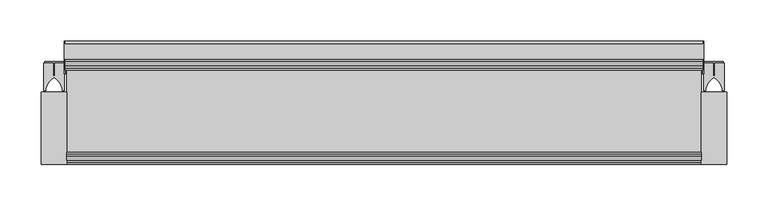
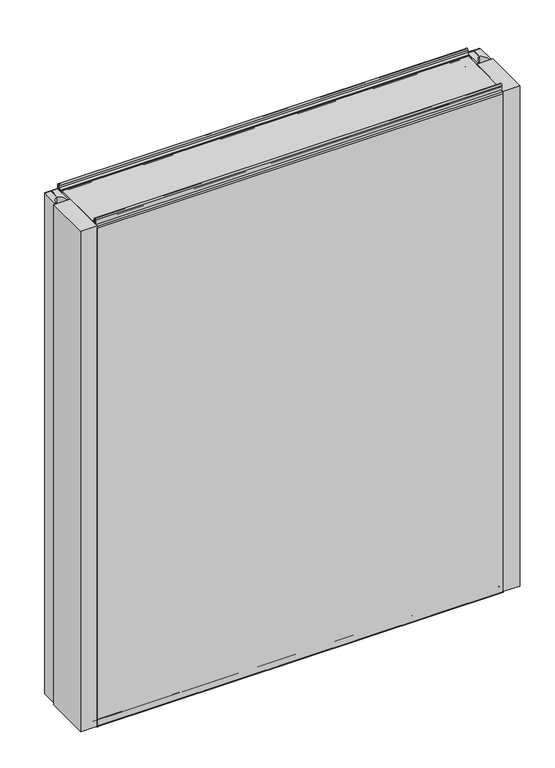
"""IFC4 building model written with IfcOpenShell, lengths in millimetres: plate geometry, Fronttop : Fronttop 150/1000."""

from ifc_helpers import new_model, si_unit, point, frame, frame_2d, origin, origin_with_axes, place, context, project, spatial, polyline, circle_curve, trimmed, segment, composite_curve, outline, extrude, source, transform, mapped, element, save
from ifc_brep_helpers import plane_surface, cylinder_surface, revolved_surface, advanced_brep


def plate_48909ca9(model_context):
    return source(origin(), model_context, "Body", "SolidModel", [
        advanced_brep(
        [(-386.5, 124.0, 1008.0), (-386.5, 121.0, 1008.0), (-386.5, 121.0, 1004.0), (-386.5, 117.0, 1000.0), (-386.5, 115.0, 1000.0), (-386.5, 115.0, 1001.0), (-386.5, 117.0, 1001.0), (-386.5, 120.0, 1004.0), (-386.5, 120.0, 1008.0), (-386.5, 125.0, 1008.0), (-386.5, 125.0, 1000.0), (-386.5, 124.0, 1000.0), (386.5, 125.0, 1008.0), (386.5, 120.0, 1008.0), (386.5, 120.0, 1004.0), (386.5, 117.0, 1001.0), (386.5, 115.0, 1001.0), (386.5, 115.0, 1000.0), (386.5, 117.0, 1000.0), (386.5, 121.0, 1004.0), (386.5, 121.0, 1008.0), (386.5, 124.0, 1008.0), (386.5, 124.0, 1000.0), (386.5, 125.0, 1000.0), (-386.5, 117.0, 2.0), (386.5, 117.0, 2.0), (386.5, 115.0, 2.0), (-386.5, 115.0, 2.0), (-386.5, 119.0, 4.0), (386.5, 119.0, 4.0), (-386.5, 119.0, 8.0), (386.5, 119.0, 8.0), (-386.5, 126.0, 8.0), (386.5, 126.0, 8.0), (-386.5, 126.0, 0.0), (386.5, 126.0, 0.0), (-386.5, 129.0, -3.0), (386.5, 129.0, -3.0), (-386.5, 125.0, -3.0), (-387.5, 125.0, -3.0), (-387.5, 147.0, -3.0), (-386.5, 147.0, -3.0), (386.5, 147.0, -3.0), (387.5, 147.0, -3.0), (387.5, 125.0, -3.0), (386.5, 125.0, -3.0), (-386.5, 150.0, 0.0), (386.5, 150.0, 0.0), (-387.5, 150.0, 0.0), (-387.5, 150.0, 969.0), (-386.5, 150.0, 969.0), (386.5, 150.0, 969.0), (387.5, 150.0, 969.0), (387.5, 150.0, 0.0), (-386.5, 147.0, 972.0), (386.5, 147.0, 972.0), (-387.5, 147.0, 972.0), (-387.5, 128.0, 972.0), (-386.5, 128.0, 972.0), (386.5, 128.0, 972.0), (387.5, 128.0, 972.0), (387.5, 147.0, 972.0), (-386.5, 125.0, 975.0), (386.5, 125.0, 975.0), (-387.5, 125.0, 975.0), (-387.5, 125.0, 1000.0), (387.5, 125.0, 1000.0), (387.5, 125.0, 975.0), (-386.5, 124.0, 975.0), (386.5, 124.0, 975.0), (-386.5, 128.0, 971.0), (386.5, 128.0, 971.0), (-386.5, 147.0, 971.0), (386.5, 147.0, 971.0), (-386.5, 149.0, 969.0), (386.5, 149.0, 969.0), (-386.5, 149.0, 0.0), (386.5, 149.0, 0.0), (-386.5, 147.0, -2.0), (386.5, 147.0, -2.0), (-386.5, 129.0, -2.0), (386.5, 129.0, -2.0), (-386.5, 127.0, 0.0), (386.5, 127.0, 0.0), (-386.5, 127.0, 8.0), (386.5, 127.0, 8.0), (-386.5, 118.0, 8.0), (386.5, 118.0, 8.0), (-386.5, 118.0, 4.0), (386.5, 118.0, 4.0), (-386.5, 117.0, 3.0), (386.5, 117.0, 3.0), (-386.5, 115.0, 3.0), (386.5, 115.0, 3.0), (387.5, 110.0, 1000.0), (387.5, 110.0, 0.0), (387.5, 125.0, 0.0), (386.5, 125.0, 0.0), (386.5, 110.0, 0.0), (386.5, 110.0, 1000.0), (-387.5, 125.0, 0.0), (-387.5, 110.0, 0.0), (-387.5, 110.0, 1000.0), (-386.5, 110.0, 1000.0), (-386.5, 110.0, 0.0), (-386.5, 125.0, 0.0)],
        [
            (0, 1, circle_curve(frame((-386.5, 122.5, 1008.0), z_axis=(1.0, 0.0, 0.0), x_axis=(0.0, -1.0, 0.0)), 1.5)),
            (1, 2),
            (2, 3, circle_curve(frame((-386.5, 117.0, 1004.0), z_axis=(-1.0, 0.0, 0.0), x_axis=(0.0, -1.0, 0.0)), 4.0)),
            (3, 4),
            (4, 5),
            (5, 6),
            (6, 7, circle_curve(frame((-386.5, 117.0, 1004.0), z_axis=(1.0, 0.0, 0.0), x_axis=(0.0, -1.0, 0.0)), 3.0)),
            (7, 8),
            (8, 9, circle_curve(frame((-386.5, 122.5, 1008.0), z_axis=(-1.0, 0.0, 0.0), x_axis=(0.0, -1.0, 0.0)), 2.5)),
            (9, 10),
            (10, 11),
            (11, 0),
            (12, 13, circle_curve(frame((386.5, 122.5, 1008.0), z_axis=(1.0, 0.0, 0.0), x_axis=(0.0, -1.0, 0.0)), 2.5)),
            (13, 14),
            (14, 15, circle_curve(frame((386.5, 117.0, 1004.0), z_axis=(-1.0, 0.0, 0.0), x_axis=(0.0, -1.0, 0.0)), 3.0)),
            (15, 16),
            (16, 17),
            (17, 18),
            (18, 19, circle_curve(frame((386.5, 117.0, 1004.0), z_axis=(1.0, 0.0, 0.0), x_axis=(0.0, -1.0, 0.0)), 4.0)),
            (19, 20),
            (20, 21, circle_curve(frame((386.5, 122.5, 1008.0), z_axis=(-1.0, 0.0, 0.0), x_axis=(0.0, -1.0, 0.0)), 1.5)),
            (21, 22),
            (22, 23),
            (23, 12),
            (24, 25),
            (25, 26),
            (26, 27),
            (27, 24),
            (24, 28, circle_curve(frame((-386.5, 117.0, 4.0), z_axis=(1.0, 0.0, 0.0), x_axis=(0.0, -1.0, 0.0)), 2.0)),
            (28, 29),
            (29, 25, circle_curve(frame((386.5, 117.0, 4.0), z_axis=(-1.0, 0.0, 0.0), x_axis=(0.0, -1.0, 0.0)), 2.0)),
            (28, 30),
            (30, 31),
            (31, 29),
            (30, 32, circle_curve(frame((-386.5, 122.5, 8.0), z_axis=(-1.0, 0.0, 0.0), x_axis=(0.0, -1.0, 0.0)), 3.5)),
            (32, 33),
            (33, 31, circle_curve(frame((386.5, 122.5, 8.0), z_axis=(1.0, 0.0, 0.0), x_axis=(0.0, -1.0, 0.0)), 3.5)),
            (32, 34),
            (34, 35),
            (35, 33),
            (34, 36, circle_curve(frame((-386.5, 129.0, 0.0), z_axis=(1.0, 0.0, 0.0), x_axis=(0.0, -1.0, 0.0)), 3.0)),
            (36, 37),
            (37, 35, circle_curve(frame((386.5, 129.0, 0.0), z_axis=(-1.0, 0.0, 0.0), x_axis=(0.0, -1.0, 0.0)), 3.0)),
            (36, 38),
            (38, 39),
            (39, 40),
            (40, 41),
            (41, 42),
            (42, 43),
            (43, 44),
            (44, 45),
            (45, 37),
            (41, 46, circle_curve(frame((-386.5, 147.0, 0.0), z_axis=(1.0, 0.0, 0.0), x_axis=(0.0, -1.0, 0.0)), 3.0)),
            (46, 47),
            (47, 42, circle_curve(frame((386.5, 147.0, 0.0), z_axis=(-1.0, 0.0, 0.0), x_axis=(0.0, -1.0, 0.0)), 3.0)),
            (46, 48),
            (48, 49),
            (49, 50),
            (50, 51),
            (51, 52),
            (52, 53),
            (53, 47),
            (50, 54, circle_curve(frame((-386.5, 147.0, 969.0), z_axis=(1.0, 0.0, 0.0), x_axis=(0.0, -1.0, 0.0)), 3.0)),
            (54, 55),
            (55, 51, circle_curve(frame((386.5, 147.0, 969.0), z_axis=(-1.0, 0.0, 0.0), x_axis=(0.0, -1.0, 0.0)), 3.0)),
            (54, 56),
            (56, 57),
            (57, 58),
            (58, 59),
            (59, 60),
            (60, 61),
            (61, 55),
            (58, 62, circle_curve(frame((-386.5, 128.0, 975.0), z_axis=(-1.0, 0.0, 0.0), x_axis=(0.0, -1.0, 0.0)), 3.0)),
            (62, 63),
            (63, 59, circle_curve(frame((386.5, 128.0, 975.0), z_axis=(1.0, 0.0, 0.0), x_axis=(0.0, -1.0, 0.0)), 3.0)),
            (62, 64),
            (64, 65),
            (65, 10),
            (9, 12),
            (23, 66),
            (66, 67),
            (67, 63),
            (8, 13),
            (7, 14),
            (6, 15),
            (5, 16),
            (4, 17),
            (4, 3),
            (3, 18),
            (18, 17),
            (2, 19),
            (1, 20),
            (0, 21),
            (11, 68),
            (68, 69),
            (69, 22),
            (68, 70, circle_curve(frame((-386.5, 128.0, 975.0), z_axis=(1.0, 0.0, 0.0), x_axis=(0.0, -1.0, 0.0)), 4.0)),
            (70, 71),
            (71, 69, circle_curve(frame((386.5, 128.0, 975.0), z_axis=(-1.0, 0.0, 0.0), x_axis=(0.0, -1.0, 0.0)), 4.0)),
            (70, 72),
            (72, 73),
            (73, 71),
            (72, 74, circle_curve(frame((-386.5, 147.0, 969.0), z_axis=(-1.0, 0.0, 0.0), x_axis=(0.0, -1.0, 0.0)), 2.0)),
            (74, 75),
            (75, 73, circle_curve(frame((386.5, 147.0, 969.0), z_axis=(1.0, 0.0, 0.0), x_axis=(0.0, -1.0, 0.0)), 2.0)),
            (74, 76),
            (76, 77),
            (77, 75),
            (76, 78, circle_curve(frame((-386.5, 147.0, 0.0), z_axis=(-1.0, 0.0, 0.0), x_axis=(0.0, -1.0, 0.0)), 2.0)),
            (78, 79),
            (79, 77, circle_curve(frame((386.5, 147.0, 0.0), z_axis=(1.0, 0.0, 0.0), x_axis=(0.0, -1.0, 0.0)), 2.0)),
            (78, 80),
            (80, 81),
            (81, 79),
            (80, 82, circle_curve(frame((-386.5, 129.0, 0.0), z_axis=(-1.0, 0.0, 0.0), x_axis=(0.0, -1.0, 0.0)), 2.0)),
            (82, 83),
            (83, 81, circle_curve(frame((386.5, 129.0, 0.0), z_axis=(1.0, 0.0, 0.0), x_axis=(0.0, -1.0, 0.0)), 2.0)),
            (82, 84),
            (84, 85),
            (85, 83),
            (84, 86, circle_curve(frame((-386.5, 122.5, 8.0), z_axis=(1.0, 0.0, 0.0), x_axis=(0.0, -1.0, 0.0)), 4.5)),
            (86, 87),
            (87, 85, circle_curve(frame((386.5, 122.5, 8.0), z_axis=(-1.0, 0.0, 0.0), x_axis=(0.0, -1.0, 0.0)), 4.5)),
            (86, 88),
            (88, 89),
            (89, 87),
            (88, 90, circle_curve(frame((-386.5, 117.0, 4.0), z_axis=(-1.0, 0.0, 0.0), x_axis=(0.0, -1.0, 0.0)), 1.0)),
            (90, 91),
            (91, 89, circle_curve(frame((386.5, 117.0, 4.0), z_axis=(1.0, 0.0, 0.0), x_axis=(0.0, -1.0, 0.0)), 1.0)),
            (90, 92),
            (92, 93),
            (93, 91),
            (26, 93),
            (92, 27),
            (66, 94),
            (94, 95),
            (95, 96),
            (96, 44),
            (43, 53, circle_curve(frame((387.5, 147.0, 0.0), z_axis=(1.0, 0.0, 0.0), x_axis=(0.0, 1.0, 0.0)), 3.0)),
            (52, 61, circle_curve(frame((387.5, 147.0, 969.0), z_axis=(1.0, 0.0, 0.0), x_axis=(0.0, 1.0, 0.0)), 3.0)),
            (60, 67, circle_curve(frame((387.5, 128.0, 975.0), z_axis=(-1.0, 0.0, 0.0), x_axis=(0.0, 1.0, 0.0)), 3.0)),
            (45, 97),
            (97, 98),
            (98, 99),
            (99, 17),
            (18, 22),
            (99, 94),
            (98, 95),
            (97, 96),
            (64, 57, circle_curve(frame((-387.5, 128.0, 975.0), z_axis=(1.0, 0.0, 0.0), x_axis=(0.0, 1.0, 0.0)), 3.0)),
            (56, 49, circle_curve(frame((-387.5, 147.0, 969.0), z_axis=(-1.0, 0.0, 0.0), x_axis=(0.0, 1.0, 0.0)), 3.0)),
            (48, 40, circle_curve(frame((-387.5, 147.0, 0.0), z_axis=(-1.0, 0.0, 0.0), x_axis=(0.0, 1.0, 0.0)), 3.0)),
            (39, 100),
            (100, 101),
            (101, 102),
            (102, 65),
            (103, 104),
            (104, 105),
            (105, 38),
            (11, 3),
            (4, 103),
            (102, 103),
            (101, 104),
            (100, 105),
        ],
        [
            plane_surface(frame((-386.5, 0.0, 0.0), z_axis=(-1.0, 0.0, 0.0), x_axis=(0.0, 0.0, 1.0))),
            plane_surface(frame((386.5, 0.0, 0.0), z_axis=(1.0, 0.0, 0.0), x_axis=(0.0, 0.0, 1.0))),
            plane_surface(frame((-386.5, 117.0, 2.0), z_axis=(0.0, 0.0, -1.0), x_axis=(1.0, 0.0, 0.0))),
            cylinder_surface(frame((-386.5, 117.0, 4.0), z_axis=(-1.0, 0.0, 0.0), x_axis=(0.0, -1.0, 0.0)), 2.0),
            plane_surface(frame((-386.5, 119.0, 8.0), z_axis=(0.0, 1.0, 0.0), x_axis=(1.0, 0.0, 0.0))),
            revolved_surface(polyline([(386.5, 119.0, 8.0), (-386.5, 119.0, 8.0)]), (-386.5, 122.5, 8.0), (1.0, 0.0, 0.0)),
            plane_surface(frame((-386.5, 126.0, 0.0), z_axis=(0.0, -1.0, 0.0), x_axis=(1.0, 0.0, 0.0))),
            cylinder_surface(frame((-386.5, 129.0, 0.0), z_axis=(-1.0, 0.0, 0.0), x_axis=(0.0, -1.0, 0.0)), 3.0),
            plane_surface(frame((-386.5, 147.0, -3.0), z_axis=(0.0, 0.0, -1.0), x_axis=(1.0, 0.0, 0.0))),
            cylinder_surface(frame((-386.5, 147.0, 0.0), z_axis=(-1.0, 0.0, 0.0), x_axis=(0.0, -1.0, 0.0)), 3.0),
            plane_surface(frame((-386.5, 150.0, 969.0), z_axis=(0.0, 1.0, 0.0), x_axis=(1.0, 0.0, 0.0))),
            cylinder_surface(frame((-386.5, 147.0, 969.0), z_axis=(-1.0, 0.0, 0.0), x_axis=(0.0, -1.0, 0.0)), 3.0),
            plane_surface(frame((-386.5, 128.0, 972.0), z_axis=(0.0, 0.0, 1.0), x_axis=(1.0, 0.0, 0.0))),
            revolved_surface(polyline([(386.5, 125.0, 975.0), (-386.5, 125.0, 975.0)]), (-386.5, 128.0, 975.0), (1.0, 0.0, 0.0)),
            plane_surface(frame((-386.5, 125.0, 1008.0), z_axis=(0.0, 1.0, 0.0), x_axis=(1.0, 0.0, 0.0))),
            cylinder_surface(frame((-386.5, 122.5, 1008.0), z_axis=(-1.0, 0.0, 0.0), x_axis=(0.0, -1.0, 0.0)), 2.5),
            plane_surface(frame((-386.5, 120.0, 1004.0), z_axis=(0.0, -1.0, 0.0), x_axis=(1.0, 0.0, 0.0))),
            revolved_surface(polyline([(386.5, 114.0, 1004.0), (-386.5, 114.0, 1004.0)]), (-386.5, 117.0, 1004.0), (1.0, 0.0, 0.0)),
            plane_surface(frame((-386.5, 115.0, 1001.0), z_axis=(0.0, 0.0, 1.0), x_axis=(1.0, 0.0, 0.0))),
            plane_surface(frame((-386.5, 115.0, 1000.0), z_axis=(0.0, -1.0, 0.0), x_axis=(1.0, 0.0, 0.0))),
            plane_surface(frame((-386.5, 117.0, 1000.0), z_axis=(0.0, 0.0, -1.0), x_axis=(1.0, 0.0, 0.0))),
            cylinder_surface(frame((-386.5, 117.0, 1004.0), z_axis=(-1.0, 0.0, 0.0), x_axis=(0.0, -1.0, 0.0)), 4.0),
            plane_surface(frame((-386.5, 121.0, 1008.0), z_axis=(0.0, 1.0, 0.0), x_axis=(1.0, 0.0, 0.0))),
            revolved_surface(polyline([(386.5, 121.0, 1008.0), (-386.5, 121.0, 1008.0)]), (-386.5, 122.5, 1008.0), (1.0, 0.0, 0.0)),
            plane_surface(frame((-386.5, 124.0, 975.0), z_axis=(0.0, -1.0, 0.0), x_axis=(1.0, 0.0, 0.0))),
            cylinder_surface(frame((-386.5, 128.0, 975.0), z_axis=(-1.0, 0.0, 0.0), x_axis=(0.0, -1.0, 0.0)), 4.0),
            plane_surface(frame((-386.5, 147.0, 971.0), z_axis=(0.0, 0.0, -1.0), x_axis=(1.0, 0.0, 0.0))),
            revolved_surface(polyline([(386.5, 145.0, 969.0), (-386.5, 145.0, 969.0)]), (-386.5, 147.0, 969.0), (1.0, 0.0, 0.0)),
            plane_surface(frame((-386.5, 149.0, 0.0), z_axis=(0.0, -1.0, 0.0), x_axis=(1.0, 0.0, 0.0))),
            revolved_surface(polyline([(386.5, 145.0, 0.0), (-386.5, 145.0, 0.0)]), (-386.5, 147.0, 0.0), (1.0, 0.0, 0.0)),
            plane_surface(frame((-386.5, 129.0, -2.0), z_axis=(0.0, 0.0, 1.0), x_axis=(1.0, 0.0, 0.0))),
            revolved_surface(polyline([(386.5, 127.0, 0.0), (-386.5, 127.0, 0.0)]), (-386.5, 129.0, 0.0), (1.0, 0.0, 0.0)),
            plane_surface(frame((-386.5, 127.0, 8.0), z_axis=(0.0, 1.0, 0.0), x_axis=(1.0, 0.0, 0.0))),
            cylinder_surface(frame((-386.5, 122.5, 8.0), z_axis=(-1.0, 0.0, 0.0), x_axis=(0.0, -1.0, 0.0)), 4.5),
            plane_surface(frame((-386.5, 118.0, 4.0), z_axis=(0.0, -1.0, 0.0), x_axis=(1.0, 0.0, 0.0))),
            revolved_surface(polyline([(386.5, 116.0, 4.0), (-386.5, 116.0, 4.0)]), (-386.5, 117.0, 4.0), (1.0, 0.0, 0.0)),
            plane_surface(frame((-386.5, 115.0, 3.0), z_axis=(0.0, 0.0, 1.0), x_axis=(1.0, 0.0, 0.0))),
            plane_surface(frame((-386.5, 115.0, 2.0), z_axis=(0.0, -1.0, 0.0), x_axis=(1.0, 0.0, 0.0))),
            plane_surface(frame((387.5, 125.0, 1000.0), z_axis=(1.0, 0.0, 0.0), x_axis=(0.0, -1.0, 0.0))),
            plane_surface(frame((386.5, 125.0, 1000.0), z_axis=(-1.0, 0.0, 0.0), x_axis=(0.0, 1.0, 0.0))),
            plane_surface(frame((387.5, 125.0, 1000.0), z_axis=(0.0, 0.0, 1.0), x_axis=(-1.0, 0.0, 0.0))),
            plane_surface(frame((387.5, 110.0, 1000.0), z_axis=(0.0, -1.0, 0.0), x_axis=(-1.0, 0.0, 0.0))),
            plane_surface(frame((387.5, 110.0, 0.0), z_axis=(0.0, 0.0, -1.0), x_axis=(-1.0, 0.0, 0.0))),
            cylinder_surface(frame((386.5, 147.0, 0.0), z_axis=(1.0, 0.0, 0.0), x_axis=(0.0, 1.0, 0.0)), 3.0),
            cylinder_surface(frame((386.5, 147.0, 969.0), z_axis=(1.0, 0.0, 0.0), x_axis=(0.0, 1.0, 0.0)), 3.0),
            revolved_surface(polyline([(386.5, 131.0, 975.0), (387.5, 131.0, 975.0)]), (386.5, 128.0, 975.0), (-1.0, 0.0, 0.0)),
            plane_surface(frame((-387.5, 125.0, 1000.0), z_axis=(-1.0, 0.0, 0.0), x_axis=(0.0, 1.0, 0.0))),
            plane_surface(frame((-386.5, 125.0, 1000.0), z_axis=(1.0, 0.0, 0.0), x_axis=(0.0, -1.0, 0.0))),
            plane_surface(frame((-386.5, 125.0, 1000.0), z_axis=(0.0, 0.0, 1.0), x_axis=(-1.0, 0.0, 0.0))),
            plane_surface(frame((-386.5, 110.0, 1000.0), z_axis=(0.0, -1.0, 0.0), x_axis=(-1.0, 0.0, 0.0))),
            plane_surface(frame((-386.5, 110.0, 0.0), z_axis=(0.0, 0.0, -1.0), x_axis=(-1.0, 0.0, 0.0))),
            cylinder_surface(frame((-387.5, 147.0, 0.0), z_axis=(1.0, 0.0, 0.0), x_axis=(0.0, 1.0, 0.0)), 3.0),
            cylinder_surface(frame((-387.5, 147.0, 969.0), z_axis=(1.0, 0.0, 0.0), x_axis=(0.0, 1.0, 0.0)), 3.0),
            revolved_surface(polyline([(-387.5, 131.0, 975.0), (-386.5, 131.0, 975.0)]), (-387.5, 128.0, 975.0), (-1.0, 0.0, 0.0)),
            plane_surface(frame((387.5, 125.0, 0.0), z_axis=(0.0, -1.0, 0.0), x_axis=(-1.0, 0.0, 0.0))),
            plane_surface(frame((-386.5, 125.0, 0.0), z_axis=(0.0, -1.0, 0.0), x_axis=(-1.0, 0.0, 0.0))),
        ],
        [
            (0, [[1, 2, 3, 4, 5, 6, 7, 8, 9, 10, 11, 12]]),
            (1, [[13, 14, 15, 16, 17, 18, 19, 20, 21, 22, 23, 24]]),
            (2, [[25, 26, 27, 28]]),
            (3, [[-25, 29, 30, 31]]),
            (4, [[-30, 32, 33, 34]]),
            (5, [[-33, 35, 36, 37]]),
            (6, [[-36, 38, 39, 40]]),
            (7, [[-39, 41, 42, 43]]),
            (8, [[-42, 44, 45, 46, 47, 48, 49, 50, 51, 52]]),
            (9, [[-48, 53, 54, 55]]),
            (10, [[-54, 56, 57, 58, 59, 60, 61, 62]]),
            (11, [[-59, 63, 64, 65]]),
            (12, [[-64, 66, 67, 68, 69, 70, 71, 72]]),
            (13, [[-69, 73, 74, 75]]),
            (14, [[-74, 76, 77, 78, -10, 79, -24, 80, 81, 82]]),
            (15, [[-9, 83, -13, -79]]),
            (16, [[-8, 84, -14, -83]]),
            (17, [[-7, 85, -15, -84]]),
            (18, [[-6, 86, -16, -85]]),
            (19, [[-5, 87, -17, -86]]),
            (20, [[-87, 88, 89, 90]]),
            (21, [[-3, 91, -19, -89]]),
            (22, [[-2, 92, -20, -91]]),
            (23, [[-1, 93, -21, -92]]),
            (24, [[-93, -12, 94, 95, 96, -22]]),
            (25, [[-95, 97, 98, 99]]),
            (26, [[-98, 100, 101, 102]]),
            (27, [[-101, 103, 104, 105]]),
            (28, [[-104, 106, 107, 108]]),
            (29, [[-107, 109, 110, 111]]),
            (30, [[-110, 112, 113, 114]]),
            (31, [[-113, 115, 116, 117]]),
            (32, [[-116, 118, 119, 120]]),
            (33, [[-119, 121, 122, 123]]),
            (34, [[-122, 124, 125, 126]]),
            (35, [[-125, 127, 128, 129]]),
            (36, [[-128, 130, 131, 132]]),
            (37, [[-27, 133, -131, 134]]),
            (38, [[135, 136, 137, 138, -50, 139, -61, 140, -71, 141, -81]]),
            (39, [[142, 143, 144, 145, -90, 146, -96, -99, -102, -105, -108, -111, -114, -117, -120, -123, -126, -129, -132, -133, -26, -31, -34, -37, -40, -43, -52]]),
            (40, [[-135, -80, -23, -146, -18, -145, 147]]),
            (41, [[-136, -147, -144, 148]]),
            (42, [[-137, -148, -143, 149]]),
            (43, [[-139, -49, -55, -62]]),
            (44, [[-140, -60, -65, -72]]),
            (45, [[-141, -70, -75, -82]]),
            (46, [[-77, 150, -67, 151, -57, 152, -46, 153, 154, 155, 156]]),
            (47, [[157, 158, 159, -44, -41, -38, -35, -32, -29, -28, -134, -130, -127, -124, -121, -118, -115, -112, -109, -106, -103, -100, -97, -94, 160, -88, 161]]),
            (48, [[-156, 162, -161, -4, -160, -11, -78]]),
            (49, [[-155, 163, -157, -162]]),
            (50, [[-154, 164, -158, -163]]),
            (51, [[-152, -56, -53, -47]]),
            (52, [[-151, -66, -63, -58]]),
            (53, [[-150, -76, -73, -68]]),
            (54, [[-138, -149, -142, -51]]),
            (55, [[-153, -45, -159, -164]]),
        ],
    ),
        extrude(outline(composite_curve([segment(polyline([(-412.5001545, 123.5), (-400.75, 123.5), (-400.75, 107.5), (-399.25, 107.5), (-399.25, 123.5), (-387.4998455, 123.5), (-387.4998455, 90.0), (-390.25, 90.0), (-390.25, 92.5)]), True, "CONTINUOUS"), segment(trimmed(circle_curve(frame_2d((-408.0338021, 89.3183984)), 18.0661619), [point((-390.25, 92.5))], [point((-400.0, 105.5))], True, "CARTESIAN"), True, "CONTINUOUS"), segment(trimmed(circle_curve(frame_2d((-391.9661979, 89.3183984)), 18.0661619), [point((-400.0, 105.5))], [point((-409.75, 92.5))], True, "CARTESIAN"), True, "CONTINUOUS"), segment(polyline([(-409.75, 92.5), (-409.75, 90.0), (-412.5001545, 90.0), (-412.5001545, 123.5)]), True, "CONTINUOUS")], self_intersect=False)), origin_with_axes(), (0.0, 0.0, 1.0), 1000.0),
        extrude(outline(polyline([(-384.5, 0.0), (-415.5, 0.0), (-415.5, 88.0), (-384.5, 88.0), (-384.5, 0.0)])), origin_with_axes(), (0.0, 0.0, 1.0), 1000.0),
        extrude(outline(polyline([(-411.5051154, 125.0), (-388.4948846, 125.0), (-388.4948846, 123.5), (-399.3497504, 123.5), (-399.3497504, 109.0759655), (-400.65, 109.0759655), (-400.65, 123.5), (-411.5051154, 123.5), (-411.5051154, 125.0)])), origin_with_axes(), (0.0, 0.0, 1.0), 1000.0),
        extrude(outline(composite_curve([segment(polyline([(387.4998455, 123.5), (399.25, 123.5), (399.25, 107.5), (400.75, 107.5), (400.75, 123.5), (412.5001545, 123.5), (412.5001545, 90.0), (409.75, 90.0), (409.75, 92.5)]), True, "CONTINUOUS"), segment(trimmed(circle_curve(frame_2d((391.9661979, 89.3183984)), 18.0661619), [point((409.75, 92.5))], [point((400.0, 105.5))], True, "CARTESIAN"), True, "CONTINUOUS"), segment(trimmed(circle_curve(frame_2d((408.0338021, 89.3183984)), 18.0661619), [point((400.0, 105.5))], [point((390.25, 92.5))], True, "CARTESIAN"), True, "CONTINUOUS"), segment(polyline([(390.25, 92.5), (390.25, 90.0), (387.4998455, 90.0), (387.4998455, 123.5)]), True, "CONTINUOUS")], self_intersect=False)), origin_with_axes(), (0.0, 0.0, 1.0), 1000.0),
        extrude(outline(polyline([(415.5, 0.0), (384.5, 0.0), (384.5, 88.0), (415.5, 88.0), (415.5, 0.0)])), origin_with_axes(), (0.0, 0.0, 1.0), 1000.0),
        extrude(outline(polyline([(388.4948846, 125.0), (411.5051154, 125.0), (411.5051154, 123.5), (400.6502496, 123.5), (400.6502496, 109.0759655), (399.35, 109.0759655), (399.35, 123.5), (388.4948846, 123.5), (388.4948846, 125.0)])), origin_with_axes(), (0.0, 0.0, 1.0), 1000.0),
        advanced_brep(
        [(-384.5, 13.0, 1001.0), (-384.5, 15.0, 1001.0), (-384.5, 15.0, 1000.0), (-384.5, 13.0, 1000.0), (-384.5, 9.0, 1004.0), (-384.5, 9.0, 1008.0), (-384.5, 6.0, 1008.0), (-384.5, 6.0, 999.5), (-384.5, 2.1134897, 996.0214069), (-384.5, 1.0, 995.0), (-384.5, 1.0, -0.5), (-384.5, 3.0, -0.5), (-384.5, 3.0, 8.0), (-384.5, 12.0, 8.0), (-384.5, 12.0, 4.0), (-384.5, 13.0, 3.0), (-384.5, 15.0, 3.0), (-384.5, 15.0, 2.0), (-384.5, 13.0, 2.0), (-384.5, 11.0, 4.0), (-384.5, 11.0, 8.0), (-384.5, 4.0, 8.0), (-384.5, 4.0, -0.5), (-384.5, 0.0, -0.5), (-384.5, 0.0, 995.0), (-384.5, 2.220863, 996.9877675), (-384.5, 5.0, 999.5), (-384.5, 5.0, 1008.0), (-384.5, 10.0, 1008.0), (-384.5, 10.0, 1004.0), (384.5, 13.0, 1001.0), (384.5, 10.0, 1004.0), (384.5, 10.0, 1008.0), (384.5, 5.0, 1008.0), (384.5, 5.0, 999.5), (384.5, 2.2239212, 997.0152907), (384.5, 0.0, 995.0), (384.5, 0.0, -0.5), (384.5, 4.0, -0.5), (384.5, 4.0, 8.0), (384.5, 11.0, 8.0), (384.5, 11.0, 4.0), (384.5, 13.0, 2.0), (384.5, 15.0, 2.0), (384.5, 15.0, 3.0), (384.5, 13.0, 3.0), (384.5, 12.0, 4.0), (384.5, 12.0, 8.0), (384.5, 3.0, 8.0), (384.5, 3.0, -0.5), (384.5, 1.0, -0.5), (384.5, 1.0, 995.0), (384.5, 2.1104315, 995.9938837), (384.5, 6.0, 999.5), (384.5, 6.0, 1008.0), (384.5, 9.0, 1008.0), (384.5, 9.0, 1004.0), (384.5, 13.0, 1000.0), (384.5, 15.0, 1000.0), (384.5, 15.0, 1001.0)],
        [
            (0, 1),
            (1, 2),
            (2, 3),
            (3, 4, circle_curve(frame((-384.5, 13.0, 1004.0), z_axis=(-1.0, 0.0, 0.0), x_axis=(0.0, -1.0, 0.0)), 4.0)),
            (4, 5),
            (5, 6, circle_curve(frame((-384.5, 7.5, 1008.0), z_axis=(1.0, 0.0, 0.0), x_axis=(0.0, -1.0, 0.0)), 1.5)),
            (6, 7),
            (7, 8, circle_curve(frame((-384.5, 2.5, 999.5), z_axis=(-1.0, 0.0, 0.0), x_axis=(0.0, -1.0, 0.0)), 3.5)),
            (8, 9, circle_curve(frame((-384.5, 2.0, 995.0), z_axis=(1.0, 0.0, 0.0), x_axis=(0.0, -1.0, 0.0)), 1.0)),
            (9, 10),
            (10, 11, circle_curve(frame((-384.5, 2.0, -0.5), z_axis=(1.0, 0.0, 0.0), x_axis=(0.0, -1.0, 0.0)), 1.0)),
            (11, 12),
            (12, 13, circle_curve(frame((-384.5, 7.5, 8.0), z_axis=(-1.0, 0.0, 0.0), x_axis=(0.0, -1.0, 0.0)), 4.5)),
            (13, 14),
            (14, 15, circle_curve(frame((-384.5, 13.0, 4.0), z_axis=(1.0, 0.0, 0.0), x_axis=(0.0, -1.0, 0.0)), 1.0)),
            (15, 16),
            (16, 17),
            (17, 18),
            (18, 19, circle_curve(frame((-384.5, 13.0, 4.0), z_axis=(-1.0, 0.0, 0.0), x_axis=(0.0, -1.0, 0.0)), 2.0)),
            (19, 20),
            (20, 21, circle_curve(frame((-384.5, 7.5, 8.0), z_axis=(1.0, 0.0, 0.0), x_axis=(0.0, -1.0, 0.0)), 3.5)),
            (21, 22),
            (22, 23, circle_curve(frame((-384.5, 2.0, -0.5), z_axis=(-1.0, 0.0, 0.0), x_axis=(0.0, -1.0, 0.0)), 2.0)),
            (23, 24),
            (24, 25, circle_curve(frame((-384.5, 2.0, 995.0), z_axis=(-1.0, 0.0, 0.0), x_axis=(0.0, -1.0, 0.0)), 2.0)),
            (25, 26, circle_curve(frame((-384.5, 2.5, 999.5), z_axis=(1.0, 0.0, 0.0), x_axis=(0.0, -1.0, 0.0)), 2.5)),
            (26, 27),
            (27, 28, circle_curve(frame((-384.5, 7.5, 1008.0), z_axis=(-1.0, 0.0, 0.0), x_axis=(0.0, -1.0, 0.0)), 2.5)),
            (28, 29),
            (29, 0, circle_curve(frame((-384.5, 13.0, 1004.0), z_axis=(1.0, 0.0, 0.0), x_axis=(0.0, -1.0, 0.0)), 3.0)),
            (30, 31, circle_curve(frame((384.5, 13.0, 1004.0), z_axis=(-1.0, 0.0, 0.0), x_axis=(0.0, -1.0, 0.0)), 3.0)),
            (31, 32),
            (32, 33, circle_curve(frame((384.5, 7.5, 1008.0), z_axis=(1.0, 0.0, 0.0), x_axis=(0.0, -1.0, 0.0)), 2.5)),
            (33, 34),
            (34, 35, circle_curve(frame((384.5, 2.5, 999.5), z_axis=(-1.0, 0.0, 0.0), x_axis=(0.0, -1.0, 0.0)), 2.5)),
            (35, 36, circle_curve(frame((384.5, 2.0, 995.0), z_axis=(1.0, 0.0, 0.0), x_axis=(0.0, -1.0, 0.0)), 2.0)),
            (36, 37),
            (37, 38, circle_curve(frame((384.5, 2.0, -0.5), z_axis=(1.0, 0.0, 0.0), x_axis=(0.0, -1.0, 0.0)), 2.0)),
            (38, 39),
            (39, 40, circle_curve(frame((384.5, 7.5, 8.0), z_axis=(-1.0, 0.0, 0.0), x_axis=(0.0, -1.0, 0.0)), 3.5)),
            (40, 41),
            (41, 42, circle_curve(frame((384.5, 13.0, 4.0), z_axis=(1.0, 0.0, 0.0), x_axis=(0.0, -1.0, 0.0)), 2.0)),
            (42, 43),
            (43, 44),
            (44, 45),
            (45, 46, circle_curve(frame((384.5, 13.0, 4.0), z_axis=(-1.0, 0.0, 0.0), x_axis=(0.0, -1.0, 0.0)), 1.0)),
            (46, 47),
            (47, 48, circle_curve(frame((384.5, 7.5, 8.0), z_axis=(1.0, 0.0, 0.0), x_axis=(0.0, -1.0, 0.0)), 4.5)),
            (48, 49),
            (49, 50, circle_curve(frame((384.5, 2.0, -0.5), z_axis=(-1.0, 0.0, 0.0), x_axis=(0.0, -1.0, 0.0)), 1.0)),
            (50, 51),
            (51, 52, circle_curve(frame((384.5, 2.0, 995.0), z_axis=(-1.0, 0.0, 0.0), x_axis=(0.0, -1.0, 0.0)), 1.0)),
            (52, 53, circle_curve(frame((384.5, 2.5, 999.5), z_axis=(1.0, 0.0, 0.0), x_axis=(0.0, -1.0, 0.0)), 3.5)),
            (53, 54),
            (54, 55, circle_curve(frame((384.5, 7.5, 1008.0), z_axis=(-1.0, 0.0, 0.0), x_axis=(0.0, -1.0, 0.0)), 1.5)),
            (55, 56),
            (56, 57, circle_curve(frame((384.5, 13.0, 1004.0), z_axis=(1.0, 0.0, 0.0), x_axis=(0.0, -1.0, 0.0)), 4.0)),
            (57, 58),
            (58, 59),
            (59, 30),
            (0, 30),
            (59, 1),
            (58, 2),
            (57, 3),
            (56, 4),
            (55, 5),
            (54, 6),
            (53, 7),
            (52, 8),
            (51, 9),
            (50, 10),
            (49, 11),
            (48, 12),
            (47, 13),
            (46, 14),
            (45, 15),
            (44, 16),
            (43, 17),
            (42, 18),
            (41, 19),
            (40, 20),
            (39, 21),
            (38, 22),
            (37, 23),
            (36, 24),
            (35, 25),
            (34, 26),
            (33, 27),
            (32, 28),
            (31, 29),
        ],
        [
            plane_surface(frame((-384.5, 0.0, 0.0), z_axis=(-1.0, 0.0, 0.0), x_axis=(0.0, 0.0, 1.0))),
            plane_surface(frame((384.5, 0.0, 0.0), z_axis=(1.0, 0.0, 0.0), x_axis=(0.0, 0.0, 1.0))),
            plane_surface(frame((-384.5, 13.0, 1001.0), z_axis=(0.0, 0.0, 1.0), x_axis=(1.0, 0.0, 0.0))),
            plane_surface(frame((-384.5, 15.0, 1001.0), z_axis=(0.0, 1.0, 0.0), x_axis=(1.0, 0.0, 0.0))),
            plane_surface(frame((-384.5, 15.0, 1000.0), z_axis=(0.0, 0.0, -1.0), x_axis=(1.0, 0.0, 0.0))),
            cylinder_surface(frame((-384.5, 13.0, 1004.0), z_axis=(-1.0, 0.0, 0.0), x_axis=(0.0, -1.0, 0.0)), 4.0),
            plane_surface(frame((-384.5, 9.0, 1004.0), z_axis=(0.0, -1.0, 0.0), x_axis=(1.0, 0.0, 0.0))),
            revolved_surface(polyline([(384.5, 6.0, 1008.0), (-384.5, 6.0, 1008.0)]), (-384.5, 7.5, 1008.0), (1.0, 0.0, 0.0)),
            plane_surface(frame((-384.5, 6.0, 1008.0), z_axis=(0.0, 1.0, 0.0), x_axis=(1.0, 0.0, 0.0))),
            cylinder_surface(frame((-384.5, 2.5, 999.5), z_axis=(-1.0, 0.0, 0.0), x_axis=(0.0, -1.0, 0.0)), 3.5),
            revolved_surface(polyline([(384.5, 1.0, 995.0), (-384.5, 1.0, 995.0)]), (-384.5, 2.0, 995.0), (1.0, 0.0, 0.0)),
            plane_surface(frame((-384.5, 1.0, 995.0), z_axis=(0.0, 1.0, 0.0), x_axis=(1.0, 0.0, 0.0))),
            revolved_surface(polyline([(384.5, 1.0, -0.5), (-384.5, 1.0, -0.5)]), (-384.5, 2.0, -0.5), (1.0, 0.0, 0.0)),
            plane_surface(frame((-384.5, 3.0, -0.5), z_axis=(0.0, -1.0, 0.0), x_axis=(1.0, 0.0, 0.0))),
            cylinder_surface(frame((-384.5, 7.5, 8.0), z_axis=(-1.0, 0.0, 0.0), x_axis=(0.0, -1.0, 0.0)), 4.5),
            plane_surface(frame((-384.5, 12.0, 8.0), z_axis=(0.0, 1.0, 0.0), x_axis=(1.0, 0.0, 0.0))),
            revolved_surface(polyline([(384.5, 12.0, 4.0), (-384.5, 12.0, 4.0)]), (-384.5, 13.0, 4.0), (1.0, 0.0, 0.0)),
            plane_surface(frame((-384.5, 13.0, 3.0), z_axis=(0.0, 0.0, 1.0), x_axis=(1.0, 0.0, 0.0))),
            plane_surface(frame((-384.5, 15.0, 3.0), z_axis=(0.0, 1.0, 0.0), x_axis=(1.0, 0.0, 0.0))),
            plane_surface(frame((-384.5, 15.0, 2.0), z_axis=(0.0, 0.0, -1.0), x_axis=(1.0, 0.0, 0.0))),
            cylinder_surface(frame((-384.5, 13.0, 4.0), z_axis=(-1.0, 0.0, 0.0), x_axis=(0.0, -1.0, 0.0)), 2.0),
            plane_surface(frame((-384.5, 11.0, 4.0), z_axis=(0.0, -1.0, 0.0), x_axis=(1.0, 0.0, 0.0))),
            revolved_surface(polyline([(384.5, 4.0, 8.0), (-384.5, 4.0, 8.0)]), (-384.5, 7.5, 8.0), (1.0, 0.0, 0.0)),
            plane_surface(frame((-384.5, 4.0, 8.0), z_axis=(0.0, 1.0, 0.0), x_axis=(1.0, 0.0, 0.0))),
            cylinder_surface(frame((-384.5, 2.0, -0.5), z_axis=(-1.0, 0.0, 0.0), x_axis=(0.0, -1.0, 0.0)), 2.0),
            plane_surface(frame((-384.5, 0.0, -0.5), z_axis=(0.0, -1.0, 0.0), x_axis=(1.0, 0.0, 0.0))),
            cylinder_surface(frame((-384.5, 2.0, 995.0), z_axis=(-1.0, 0.0, 0.0), x_axis=(0.0, -1.0, 0.0)), 2.0),
            revolved_surface(polyline([(384.5, 0.0, 999.5), (-384.5, 0.0, 999.5)]), (-384.5, 2.5, 999.5), (1.0, 0.0, 0.0)),
            plane_surface(frame((-384.5, 5.0, 999.5), z_axis=(0.0, -1.0, 0.0), x_axis=(1.0, 0.0, 0.0))),
            cylinder_surface(frame((-384.5, 7.5, 1008.0), z_axis=(-1.0, 0.0, 0.0), x_axis=(0.0, -1.0, 0.0)), 2.5),
            plane_surface(frame((-384.5, 10.0, 1008.0), z_axis=(0.0, 1.0, 0.0), x_axis=(1.0, 0.0, 0.0))),
            revolved_surface(polyline([(384.5, 10.0, 1004.0), (-384.5, 10.0, 1004.0)]), (-384.5, 13.0, 1004.0), (1.0, 0.0, 0.0)),
        ],
        [
            (0, [[1, 2, 3, 4, 5, 6, 7, 8, 9, 10, 11, 12, 13, 14, 15, 16, 17, 18, 19, 20, 21, 22, 23, 24, 25, 26, 27, 28, 29, 30]]),
            (1, [[31, 32, 33, 34, 35, 36, 37, 38, 39, 40, 41, 42, 43, 44, 45, 46, 47, 48, 49, 50, 51, 52, 53, 54, 55, 56, 57, 58, 59, 60]]),
            (2, [[-1, 61, -60, 62]]),
            (3, [[-2, -62, -59, 63]]),
            (4, [[-3, -63, -58, 64]]),
            (5, [[-4, -64, -57, 65]]),
            (6, [[-5, -65, -56, 66]]),
            (7, [[-6, -66, -55, 67]]),
            (8, [[-7, -67, -54, 68]]),
            (9, [[-8, -68, -53, 69]]),
            (10, [[-9, -69, -52, 70]]),
            (11, [[-10, -70, -51, 71]]),
            (12, [[-11, -71, -50, 72]]),
            (13, [[-12, -72, -49, 73]]),
            (14, [[-13, -73, -48, 74]]),
            (15, [[-14, -74, -47, 75]]),
            (16, [[-15, -75, -46, 76]]),
            (17, [[-16, -76, -45, 77]]),
            (18, [[-17, -77, -44, 78]]),
            (19, [[-18, -78, -43, 79]]),
            (20, [[-19, -79, -42, 80]]),
            (21, [[-20, -80, -41, 81]]),
            (22, [[-21, -81, -40, 82]]),
            (23, [[-22, -82, -39, 83]]),
            (24, [[-23, -83, -38, 84]]),
            (25, [[-24, -84, -37, 85]]),
            (26, [[-25, -85, -36, 86]]),
            (27, [[-26, -86, -35, 87]]),
            (28, [[-27, -87, -34, 88]]),
            (29, [[-28, -88, -33, 89]]),
            (30, [[-29, -89, -32, 90]]),
            (31, [[-30, -90, -31, -61]]),
        ],
    ),
        extrude(outline(composite_curve([segment(polyline([(15.0, 3.0), (13.0, 3.0)]), True, "CONTINUOUS"), segment(trimmed(circle_curve(frame_2d((13.0, 4.0)), 1.0), [point((13.0, 3.0))], [point((12.0, 4.0))], False, "CARTESIAN"), True, "CONTINUOUS"), segment(polyline([(12.0, 4.0), (12.0, 8.0)]), True, "CONTINUOUS"), segment(trimmed(circle_curve(frame_2d((7.5, 8.0)), 4.5), [point((12.0, 8.0))], [point((3.0, 8.0))], True, "CARTESIAN"), True, "CONTINUOUS"), segment(polyline([(3.0, 8.0), (3.0, -0.5)]), True, "CONTINUOUS"), segment(trimmed(circle_curve(frame_2d((2.0, -0.5)), 1.0), [point((3.0, -0.5))], [point((1.0, -0.5))], False, "CARTESIAN"), True, "CONTINUOUS"), segment(polyline([(1.0, -0.5), (1.0, 995.0278643)]), True, "CONTINUOUS"), segment(trimmed(circle_curve(frame_2d((2.0, 995.0278643)), 1.0), [point((1.0, 995.0278643))], [point((2.1111111, 996.0216723))], False, "CARTESIAN"), True, "CONTINUOUS"), segment(trimmed(circle_curve(frame_2d((2.5, 999.5)), 3.5), [point((2.1111111, 996.0216723))], [point((6.0, 999.5))], True, "CARTESIAN"), True, "CONTINUOUS"), segment(polyline([(6.0, 999.5), (6.0, 1008.0)]), True, "CONTINUOUS"), segment(trimmed(circle_curve(frame_2d((7.5, 1008.0)), 1.5), [point((6.0, 1008.0))], [point((9.0, 1008.0))], False, "CARTESIAN"), True, "CONTINUOUS"), segment(polyline([(9.0, 1008.0), (9.0, 1004.0)]), True, "CONTINUOUS"), segment(trimmed(circle_curve(frame_2d((13.0, 1004.0)), 4.0), [point((9.0, 1004.0))], [point((13.0, 1000.0))], True, "CARTESIAN"), True, "CONTINUOUS"), segment(polyline([(13.0, 1000.0), (117.0, 1000.0)]), True, "CONTINUOUS"), segment(trimmed(circle_curve(frame_2d((117.0, 1004.0)), 4.0), [point((117.0, 1000.0))], [point((121.0, 1004.0))], True, "CARTESIAN"), True, "CONTINUOUS"), segment(polyline([(121.0, 1004.0), (121.0, 1008.0)]), True, "CONTINUOUS"), segment(trimmed(circle_curve(frame_2d((122.5, 1008.0)), 1.5), [point((121.0, 1008.0))], [point((124.0, 1008.0))], False, "CARTESIAN"), True, "CONTINUOUS"), segment(polyline([(124.0, 1008.0), (124.0, 975.0)]), True, "CONTINUOUS"), segment(trimmed(circle_curve(frame_2d((128.0, 975.0)), 4.0), [point((124.0, 975.0))], [point((128.0, 971.0))], True, "CARTESIAN"), True, "CONTINUOUS"), segment(polyline([(128.0, 971.0), (147.0, 971.0)]), True, "CONTINUOUS"), segment(trimmed(circle_curve(frame_2d((147.0, 969.0)), 2.0), [point((147.0, 971.0))], [point((149.0, 969.0))], False, "CARTESIAN"), True, "CONTINUOUS"), segment(polyline([(149.0, 969.0), (149.0, 0.0)]), True, "CONTINUOUS"), segment(trimmed(circle_curve(frame_2d((147.0, 0.0)), 2.0), [point((149.0, 0.0))], [point((147.0, -2.0))], False, "CARTESIAN"), True, "CONTINUOUS"), segment(polyline([(147.0, -2.0), (129.0, -2.0)]), True, "CONTINUOUS"), segment(trimmed(circle_curve(frame_2d((129.0, 0.0)), 2.0), [point((129.0, -2.0))], [point((127.0, 0.0))], False, "CARTESIAN"), True, "CONTINUOUS"), segment(polyline([(127.0, 0.0), (127.0, 8.0)]), True, "CONTINUOUS"), segment(trimmed(circle_curve(frame_2d((122.5, 8.0)), 4.5), [point((127.0, 8.0))], [point((118.0, 8.0))], True, "CARTESIAN"), True, "CONTINUOUS"), segment(polyline([(118.0, 8.0), (118.0, 4.0)]), True, "CONTINUOUS"), segment(trimmed(circle_curve(frame_2d((117.0, 4.0)), 1.0), [point((118.0, 4.0))], [point((117.0, 3.0))], False, "CARTESIAN"), True, "CONTINUOUS"), segment(polyline([(117.0, 3.0), (115.0, 3.0), (115.0, 0.0), (15.0, 0.0), (15.0, 3.0)]), True, "CONTINUOUS")], self_intersect=False)), frame((-384.5, 0.0, 0.0), z_axis=(1.0, 0.0, 0.0), x_axis=(0.0, 1.0, 0.0)), (0.0, 0.0, 1.0), 769.0),
    ])


if __name__ == "__main__":
    model = new_model("IFC4")
    model_context = context("Model", 3, world=origin())
    ifc_project = project(units=[si_unit("LENGTHUNIT", "METRE", prefix="MILLI")], contexts=[model_context])
    site = spatial("IfcSite", under=ifc_project)
    building = spatial("IfcBuilding", under=site)
    placement = place(None, origin())
    plate_shape = plate_48909ca9(model_context)
    element("IfcPlate", 1, ObjectType="Fronttop : Fronttop 150/1000", at=placement, inside=building, context=model_context, shape_type="MappedRepresentation", body=[
        mapped(plate_shape, transform((0.0, 0.0, 0.0), x_axis=(1.0, 0.0, 0.0), y_axis=(0.0, 1.0, 0.0), z_axis=(0.0, 0.0, 1.0))),
    ])
    save(model, "model.ifc")
